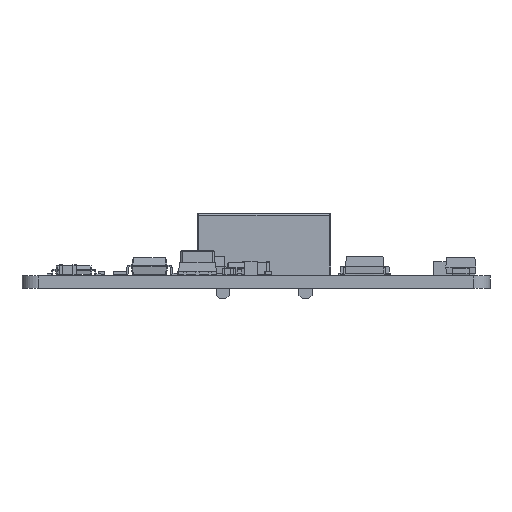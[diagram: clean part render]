
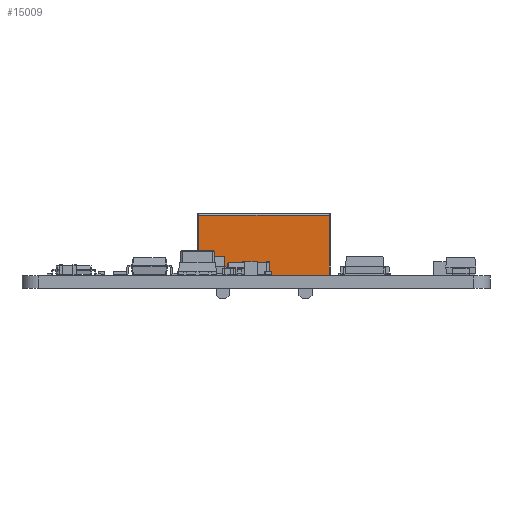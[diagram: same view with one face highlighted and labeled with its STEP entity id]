
A CAD part, left-side view. The second image highlights one B-rep face of the part: STEP entity #15009.
In plain terms, the highlighted planar face has unit normal (-1, 0, 0) as drawn and (0, -1, 0) by its records, which use the part's own axes.
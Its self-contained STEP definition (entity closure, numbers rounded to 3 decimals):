
#14416 = VERTEX_POINT('',#14417);
#14417 = CARTESIAN_POINT('',(-2.84,-5.06,0.));
#14424 = EDGE_CURVE('',#14416,#14425,#14427,.T.);
#14425 = VERTEX_POINT('',#14426);
#14426 = CARTESIAN_POINT('',(12.76,-5.06,0.));
#14427 = LINE('',#14428,#14429);
#14428 = CARTESIAN_POINT('',(-3.04,-5.06,0.));
#14429 = VECTOR('',#14430,1.);
#14430 = DIRECTION('',(1.,0.,0.));
#14671 = EDGE_CURVE('',#14425,#14672,#14674,.T.);
#14672 = VERTEX_POINT('',#14673);
#14673 = CARTESIAN_POINT('',(12.76,-5.06,7.17));
#14674 = LINE('',#14675,#14676);
#14675 = CARTESIAN_POINT('',(12.76,-5.06,0.));
#14676 = VECTOR('',#14677,1.);
#14677 = DIRECTION('',(0.,0.,1.));
#15009 = ADVANCED_FACE('',(#15010),#15028,.F.);
#15010 = FACE_BOUND('',#15011,.F.);
#15011 = EDGE_LOOP('',(#15012,#15013,#15014,#15022));
#15012 = ORIENTED_EDGE('',*,*,#14671,.F.);
#15013 = ORIENTED_EDGE('',*,*,#14424,.F.);
#15014 = ORIENTED_EDGE('',*,*,#15015,.T.);
#15015 = EDGE_CURVE('',#14416,#15016,#15018,.T.);
#15016 = VERTEX_POINT('',#15017);
#15017 = CARTESIAN_POINT('',(-2.84,-5.06,7.17));
#15018 = LINE('',#15019,#15020);
#15019 = CARTESIAN_POINT('',(-2.84,-5.06,0.));
#15020 = VECTOR('',#15021,1.);
#15021 = DIRECTION('',(0.,0.,1.));
#15022 = ORIENTED_EDGE('',*,*,#15023,.T.);
#15023 = EDGE_CURVE('',#15016,#14672,#15024,.T.);
#15024 = LINE('',#15025,#15026);
#15025 = CARTESIAN_POINT('',(-2.84,-5.06,7.17));
#15026 = VECTOR('',#15027,1.);
#15027 = DIRECTION('',(1.,0.,0.));
#15028 = PLANE('',#15029);
#15029 = AXIS2_PLACEMENT_3D('',#15030,#15031,#15032);
#15030 = CARTESIAN_POINT('',(-3.04,-5.06,0.));
#15031 = DIRECTION('',(0.,1.,0.));
#15032 = DIRECTION('',(1.,0.,0.));
